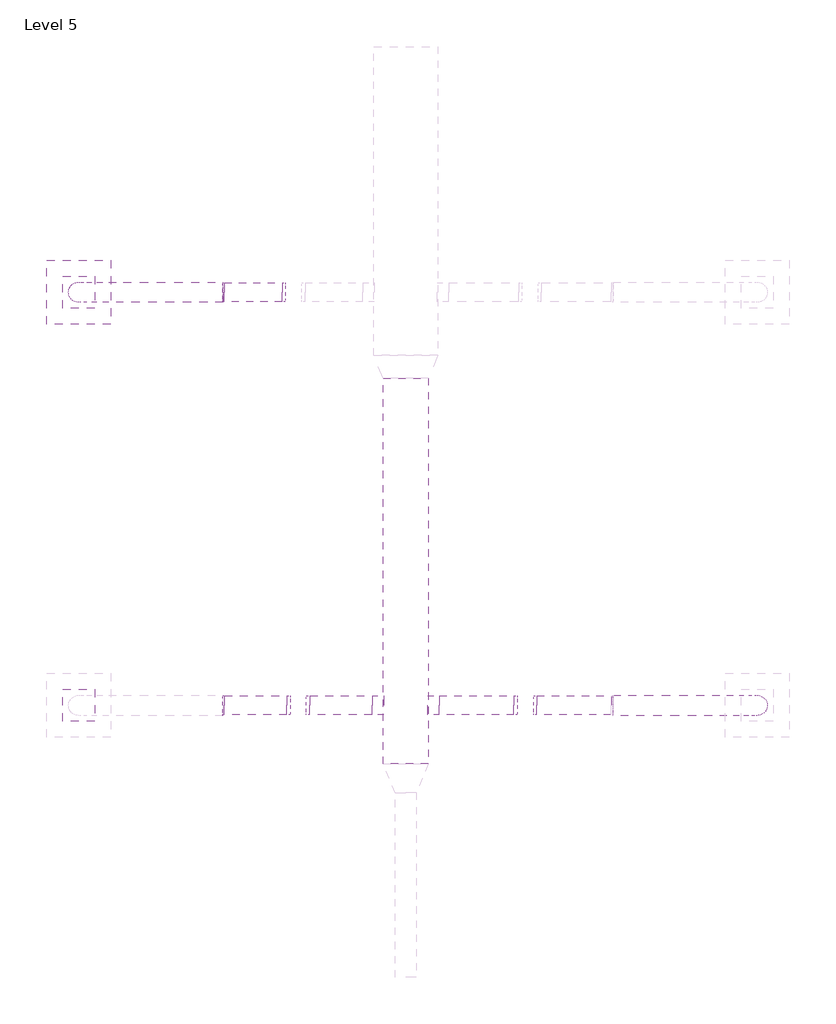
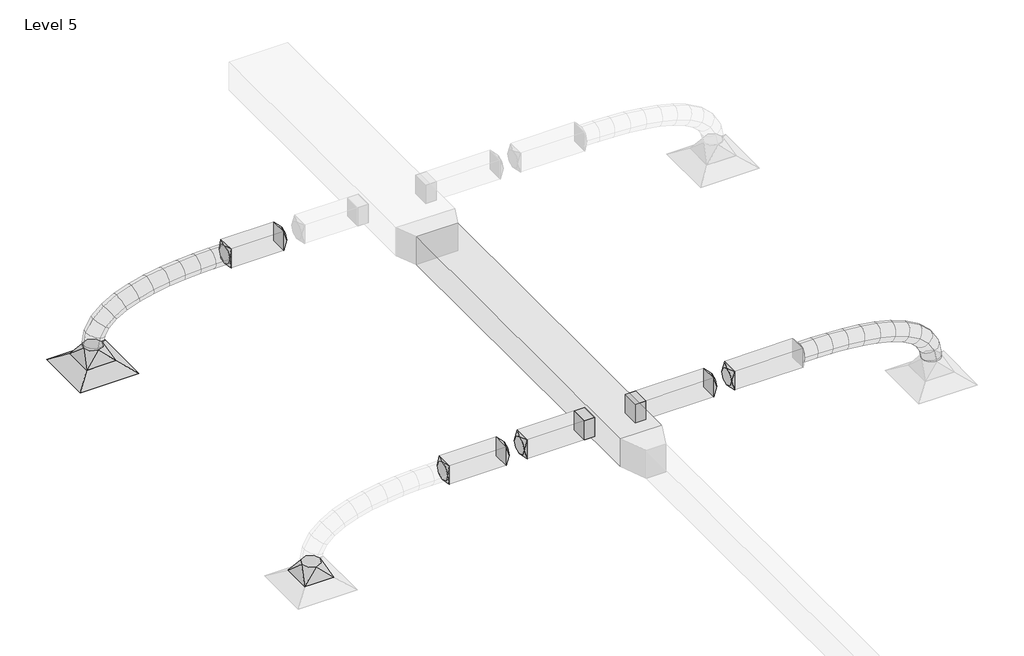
# One storey, part 2 of 7: 11 duct fittings, 8 duct segments, 1 air terminal.
"""IFC4 building model written with IfcOpenShell, lengths in millimetres."""

from ifc_helpers import new_model, si_unit, frame, origin, place, context, project, spatial, polyline, circle_curve, ellipse_curve, outline, extrude, transform, mapped, element, save
from ifc_brep_helpers import plane_surface, cylinder_surface, advanced_brep
from components import extract_grille_600_x_600_face_300_x_300_connection_8a0e72a1, rectangular_takeoff_standard_32a156ed, rectangular_to_round_transition_angle_45_degree_6939472c, rectangular_to_round_transition_angle_45_degree_460bb45a, rectangular_to_round_transition_angle_45_degree_ccfbbdd0

model = new_model("IFC4")

# Units and contexts
model_context = context("Model", 3, world=origin())
ifc_project = project(units=[si_unit("LENGTHUNIT", "METRE", prefix="MILLI")], contexts=[model_context])

# Site, building, storey
site = spatial("IfcSite", under=ifc_project)
building = spatial("IfcBuilding", under=site)
storey = spatial("IfcBuildingStorey", under=building, Name="Level 5", Elevation=19507.2)

# Air terminal
placement = place(None, origin())
extract_grille_600_x_600_face_300_x_300_connection_shape = extract_grille_600_x_600_face_300_x_300_connection_8a0e72a1(model_context)
element("IfcAirTerminal", 1, ObjectType="Extract Grille : 600 x 600 Face 300 x 300 Connection", at=placement, inside=storey, context=model_context, shape_type="MappedRepresentation", body=[
    mapped(extract_grille_600_x_600_face_300_x_300_connection_shape, transform((-13951.4273397, 7900.8314492, 21507.2), x_axis=(1.0, 0.0, 0.0), y_axis=(0.0, 1.0, 0.0), z_axis=(0.0, 0.0, 1.0))),
])

# Duct fittings
rectangular_takeoff_standard_shape = rectangular_takeoff_standard_32a156ed(model_context)
element("IfcDuctFitting", 2, ObjectType="Rectangular Takeoff : Standard", at=placement, inside=storey, context=model_context, shape_type="MappedRepresentation", body=[
    mapped(rectangular_takeoff_standard_shape, transform((-10675.899049, 4033.0001252, 22250.4), x_axis=(1.0, 0.0, 0.0), y_axis=(0.0, -1.0, 0.0), z_axis=(0.0, 0.0, -1.0))),
])
element("IfcDuctFitting", 3, ObjectType="Rectangular Takeoff : Standard", at=placement, inside=storey, context=model_context, shape_type="MappedRepresentation", body=[
    mapped(rectangular_takeoff_standard_shape, transform((-11100.899049, 4033.0001252, 22250.4), x_axis=(-1.0, 0.0, 0.0), y_axis=(0.0, -1.0, 0.0), z_axis=(0.0, 0.0, 1.0))),
])
rectangular_to_round_transition_angle_45_degree_shape = rectangular_to_round_transition_angle_45_degree_6939472c(model_context)
element("IfcDuctFitting", 4, ObjectType="Rectangular to Round Transition - Angle : 45 Degree", at=placement, inside=storey, context=model_context, shape_type="MappedRepresentation", body=[
    mapped(rectangular_to_round_transition_angle_45_degree_shape, transform((-13951.4273397, 7900.8314492, 21607.2), x_axis=(0.0, 0.0, 1.0), y_axis=(-1.0, 0.0, 0.0), z_axis=(0.0, -1.0, 0.0))),
])
element("IfcDuctFitting", 5, ObjectType="Rectangular to Round Transition - Angle : 45 Degree", at=placement, inside=storey, context=model_context, shape_type="MappedRepresentation", body=[
    mapped(rectangular_to_round_transition_angle_45_degree_shape, transform((-13951.4273397, 4033.0001252, 21607.2), x_axis=(0.0, 0.0, 1.0), y_axis=(-1.0, 0.0, 0.0), z_axis=(0.0, -1.0, 0.0))),
])
rectangular_to_round_transition_angle_45_degree_2_shape = rectangular_to_round_transition_angle_45_degree_460bb45a(model_context)
element("IfcDuctFitting", 6, ObjectType="Rectangular to Round Transition - Angle : 45 Degree", at=placement, inside=storey, context=model_context, shape_type="MappedRepresentation", body=[
    mapped(rectangular_to_round_transition_angle_45_degree_2_shape, transform((-12587.2796335, 7900.8314492, 22250.4), x_axis=(-1.0, 0.0, 0.0), y_axis=(0.0, -1.0, 0.0), z_axis=(0.0, 0.0, 1.0))),
])
element("IfcDuctFitting", 7, ObjectType="Rectangular to Round Transition - Angle : 45 Degree", at=placement, inside=storey, context=model_context, shape_type="MappedRepresentation", body=[
    mapped(rectangular_to_round_transition_angle_45_degree_2_shape, transform((-12587.2796335, 4033.0001252, 22250.4), x_axis=(-1.0, 0.0, 0.0), y_axis=(0.0, -1.0, 0.0), z_axis=(0.0, 0.0, 1.0))),
])
rectangular_to_round_transition_angle_45_degree_3_shape = rectangular_to_round_transition_angle_45_degree_ccfbbdd0(model_context)
element("IfcDuctFitting", 8, ObjectType="Rectangular to Round Transition - Angle : 45 Degree", at=placement, inside=storey, context=model_context, shape_type="MappedRepresentation", body=[
    mapped(rectangular_to_round_transition_angle_45_degree_3_shape, transform((-11788.028829, 4033.0001252, 22250.4), x_axis=(-1.0, 0.0, 0.0), y_axis=(0.0, -1.0, 0.0), z_axis=(0.0, 0.0, 1.0))),
])
element("IfcDuctFitting", 9, ObjectType="Rectangular to Round Transition - Angle : 45 Degree", at=placement, inside=storey, context=model_context, shape_type="MappedRepresentation", body=[
    mapped(rectangular_to_round_transition_angle_45_degree_3_shape, transform((-12001.7498535, 4033.0001252, 22250.4), x_axis=(1.0, 0.0, 0.0), y_axis=(0.0, 1.0, 0.0), z_axis=(0.0, 0.0, 1.0))),
])
element("IfcDuctFitting", 10, ObjectType="Rectangular to Round Transition - Angle : 45 Degree", at=placement, inside=storey, context=model_context, shape_type="MappedRepresentation", body=[
    mapped(rectangular_to_round_transition_angle_45_degree_3_shape, transform((-9875.7660617, 4033.0001252, 22250.4), x_axis=(1.0, 0.0, 0.0), y_axis=(0.0, 1.0, 0.0), z_axis=(0.0, 0.0, 1.0))),
])
element("IfcDuctFitting", 11, ObjectType="Rectangular to Round Transition - Angle : 45 Degree", at=placement, inside=storey, context=model_context, shape_type="MappedRepresentation", body=[
    mapped(rectangular_to_round_transition_angle_45_degree_3_shape, transform((-9662.0450373, 4033.0001252, 22250.4), x_axis=(-1.0, 0.0, 0.0), y_axis=(0.0, -1.0, 0.0), z_axis=(0.0, 0.0, 1.0))),
])
element("IfcDuctFitting", 12, ObjectType="Rectangular to Round Transition - Angle : 45 Degree", at=placement, inside=storey, context=model_context, shape_type="MappedRepresentation", body=[
    mapped(rectangular_to_round_transition_angle_45_degree_3_shape, transform((-12045.4998535, 7900.8314492, 22250.4), x_axis=(1.0, 0.0, 0.0), y_axis=(0.0, 1.0, 0.0), z_axis=(0.0, 0.0, 1.0))),
])

# Duct segments
element("IfcDuctSegment", 13, ObjectType="Flex - Round", at=placement, inside=storey, context=model_context, shape_type="AdvancedBrep", body=[
    advanced_brep(
    [(-13856.600673, 7900.8314492, 21740.4002096), (-13951.4273397, 7806.0047825, 21740.4002096), (-14046.2540063, 7900.8314492, 21740.4002096), (-13951.4273397, 7995.6581158, 21740.4002096), (-13856.600673, 7900.8314492, 21747.1257674), (-13951.4273397, 7806.0047825, 21756.3980144), (-14046.2540063, 7900.8314492, 21765.6702615), (-13951.4273397, 7995.6581158, 21756.3980144), (-13840.9042421, 7900.8314492, 21826.6215495), (-13930.8630542, 7806.0047825, 21860.5474205), (-14020.8218663, 7900.8314492, 21894.4732915), (-13930.8630542, 7995.6581158, 21860.5474205), (-13798.3595041, 7900.8314492, 21899.8493536), (-13872.9403898, 7806.0047825, 21960.2436396), (-13947.5212755, 7900.8314492, 22020.6379256), (-13872.9403898, 7995.6581158, 21960.2436396), (-13727.6906802, 7900.8314492, 21963.8298786), (-13783.3146346, 7806.0047825, 22041.3869579), (-13838.9385891, 7900.8314492, 22118.9440371), (-13783.3146346, 7995.6581158, 22041.3869579), (-13628.0298936, 7900.8314492, 22019.391198), (-13667.6410769, 7806.0047825, 22105.8754664), (-13707.2522603, 7900.8314492, 22192.3597348), (-13667.6410769, 7995.6581158, 22105.8754664), (-13503.9528951, 7900.8314492, 22064.7410131), (-13531.5750048, 7806.0047825, 22155.6072562), (-13559.1971146, 7900.8314492, 22246.4734993), (-13531.5750048, 7995.6581158, 22155.6072562), (-13361.8954964, 7900.8314492, 22099.475701), (-13380.7717065, 7806.0047825, 22192.4804184), (-13399.6479166, 7900.8314492, 22285.4851358), (-13380.7717065, 7995.6581158, 22192.4804184), (-13208.4245564, 7900.8314492, 22124.3487604), (-13220.88647, 7806.0047825, 22218.3930438), (-13233.3483837, 7900.8314492, 22312.4373273), (-13220.88647, 7995.6581158, 22218.3930438), (-13049.859091, 7900.8314492, 22140.7092145), (-13057.5745837, 7806.0047825, 22235.2432237), (-13065.2900763, 7900.8314492, 22329.777233), (-13057.5745837, 7995.6581158, 22235.2432237), (-12892.2772857, 7900.8314492, 22150.1845004), (-12896.4913355, 7806.0047825, 22244.929049), (-12900.7053854, 7900.8314492, 22339.6735976), (-12896.4913355, 7995.6581158, 22244.929049), (-12741.5676591, 7900.8314492, 22154.5322383), (-12743.2920138, 7806.0047825, 22249.3486108), (-12745.0163686, 7900.8314492, 22344.1649832), (-12743.2920138, 7995.6581158, 22249.3486108), (-12602.9180528, 7900.8314492, 22155.5760203), (-12603.6319067, 7995.6581158, 22250.4), (-12604.3457606, 7900.8314492, 22345.2239797), (-12603.6319067, 7806.0047825, 22250.4)],
    [
        (0, 1, circle_curve(frame((-13951.4273397, 7900.8314492, 21740.4002096), z_axis=(0.0, 0.0, -1.0), x_axis=(1.0, 0.0, 0.0)), 94.8266667)),
        (1, 2, circle_curve(frame((-13951.4273397, 7900.8314492, 21740.4002096), z_axis=(0.0, 0.0, -1.0), x_axis=(1.0, 0.0, 0.0)), 94.8266667)),
        (2, 3, circle_curve(frame((-13951.4273397, 7900.8314492, 21740.4002096), z_axis=(0.0, 0.0, -1.0), x_axis=(1.0, 0.0, 0.0)), 94.8266667)),
        (3, 0, circle_curve(frame((-13951.4273397, 7900.8314492, 21740.4002096), z_axis=(0.0, 0.0, -1.0), x_axis=(1.0, 0.0, 0.0)), 94.8266667)),
        (0, 4),
        (4, 5, ellipse_curve(frame((-13951.4273397, 7900.8314492, 21756.3980144), z_axis=(-0.0973168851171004, 0.0, -0.9952534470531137), x_axis=(0.9952534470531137, 0.0, -0.09731688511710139)), 95.2789131, 94.8266667)),
        (5, 1),
        (5, 6, ellipse_curve(frame((-13951.4273397, 7900.8314492, 21756.3980144), z_axis=(-0.0973168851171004, 0.0, -0.9952534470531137), x_axis=(0.9952534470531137, 0.0, -0.09731688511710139)), 95.2789131, 94.8266667)),
        (6, 2),
        (6, 7, ellipse_curve(frame((-13951.4273397, 7900.8314492, 21756.3980144), z_axis=(-0.0973168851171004, 0.0, -0.9952534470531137), x_axis=(0.9952534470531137, 0.0, -0.09731688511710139)), 95.2789131, 94.8266667)),
        (7, 3),
        (7, 4, ellipse_curve(frame((-13951.4273397, 7900.8314492, 21756.3980144), z_axis=(-0.0973168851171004, 0.0, -0.9952534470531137), x_axis=(0.9952534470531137, 0.0, -0.09731688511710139)), 95.2789131, 94.8266667)),
        (4, 8),
        (8, 9, ellipse_curve(frame((-13930.8630542, 7900.8314492, 21860.5474205), z_axis=(-0.35286740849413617, 0.0, -0.9356733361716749), x_axis=(0.9356733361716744, 0.0, -0.3528674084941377)), 96.143396, 94.8266667)),
        (9, 5),
        (9, 10, ellipse_curve(frame((-13930.8630542, 7900.8314492, 21860.5474205), z_axis=(-0.35286740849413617, 0.0, -0.9356733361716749), x_axis=(0.9356733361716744, 0.0, -0.3528674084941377)), 96.143396, 94.8266667)),
        (10, 6),
        (10, 11, ellipse_curve(frame((-13930.8630542, 7900.8314492, 21860.5474205), z_axis=(-0.35286740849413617, 0.0, -0.9356733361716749), x_axis=(0.9356733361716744, 0.0, -0.3528674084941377)), 96.143396, 94.8266667)),
        (11, 7),
        (11, 8, ellipse_curve(frame((-13930.8630542, 7900.8314492, 21860.5474205), z_axis=(-0.35286740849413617, 0.0, -0.9356733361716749), x_axis=(0.9356733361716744, 0.0, -0.3528674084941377)), 96.143396, 94.8266667)),
        (8, 12),
        (12, 13, ellipse_curve(frame((-13872.9403898, 7900.8314492, 21960.2436396), z_axis=(-0.6293196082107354, 0.0, -0.7771465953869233), x_axis=(0.7771465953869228, 0.0, -0.6293196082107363)), 95.9675898, 94.8266667)),
        (13, 9),
        (13, 14, ellipse_curve(frame((-13872.9403898, 7900.8314492, 21960.2436396), z_axis=(-0.6293196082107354, 0.0, -0.7771465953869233), x_axis=(0.7771465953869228, 0.0, -0.6293196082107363)), 95.9675898, 94.8266667)),
        (14, 10),
        (14, 15, ellipse_curve(frame((-13872.9403898, 7900.8314492, 21960.2436396), z_axis=(-0.6293196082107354, 0.0, -0.7771465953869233), x_axis=(0.7771465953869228, 0.0, -0.6293196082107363)), 95.9675898, 94.8266667)),
        (15, 11),
        (15, 12, ellipse_curve(frame((-13872.9403898, 7900.8314492, 21960.2436396), z_axis=(-0.6293196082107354, 0.0, -0.7771465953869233), x_axis=(0.7771465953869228, 0.0, -0.6293196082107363)), 95.9675898, 94.8266667)),
        (12, 16),
        (16, 17, ellipse_curve(frame((-13783.3146346, 7900.8314492, 22041.3869579), z_axis=(-0.8126117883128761, 0.0, -0.5828053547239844), x_axis=(0.5828053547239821, 0.0, -0.812611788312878)), 95.4417354, 94.8266667)),
        (17, 13),
        (17, 18, ellipse_curve(frame((-13783.3146346, 7900.8314492, 22041.3869579), z_axis=(-0.8126117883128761, 0.0, -0.5828053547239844), x_axis=(0.5828053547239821, 0.0, -0.812611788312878)), 95.4417354, 94.8266667)),
        (18, 14),
        (18, 19, ellipse_curve(frame((-13783.3146346, 7900.8314492, 22041.3869579), z_axis=(-0.8126117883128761, 0.0, -0.5828053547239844), x_axis=(0.5828053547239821, 0.0, -0.812611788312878)), 95.4417354, 94.8266667)),
        (19, 15),
        (19, 16, ellipse_curve(frame((-13783.3146346, 7900.8314492, 22041.3869579), z_axis=(-0.8126117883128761, 0.0, -0.5828053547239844), x_axis=(0.5828053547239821, 0.0, -0.812611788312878)), 95.4417354, 94.8266667)),
        (16, 20),
        (20, 21, ellipse_curve(frame((-13667.6410769, 7900.8314492, 22105.8754664), z_axis=(-0.909174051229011, 0.0, -0.4164163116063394), x_axis=(0.41641631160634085, 0.0, -0.9091740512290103)), 95.1239955, 94.8266667)),
        (21, 17),
        (21, 22, ellipse_curve(frame((-13667.6410769, 7900.8314492, 22105.8754664), z_axis=(-0.909174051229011, 0.0, -0.4164163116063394), x_axis=(0.41641631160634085, 0.0, -0.9091740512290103)), 95.1239955, 94.8266667)),
        (22, 18),
        (22, 23, ellipse_curve(frame((-13667.6410769, 7900.8314492, 22105.8754664), z_axis=(-0.909174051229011, 0.0, -0.4164163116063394), x_axis=(0.41641631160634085, 0.0, -0.9091740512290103)), 95.1239955, 94.8266667)),
        (23, 19),
        (23, 20, ellipse_curve(frame((-13667.6410769, 7900.8314492, 22105.8754664), z_axis=(-0.909174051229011, 0.0, -0.4164163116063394), x_axis=(0.41641631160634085, 0.0, -0.9091740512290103)), 95.1239955, 94.8266667)),
        (20, 24),
        (24, 25, ellipse_curve(frame((-13531.5750048, 7900.8314492, 22155.6072562), z_axis=(-0.9567701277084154, 0.0, -0.29084518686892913), x_axis=(0.29084518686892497, 0.0, -0.9567701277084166)), 94.9718647, 94.8266667)),
        (25, 21),
        (25, 26, ellipse_curve(frame((-13531.5750048, 7900.8314492, 22155.6072562), z_axis=(-0.9567701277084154, 0.0, -0.29084518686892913), x_axis=(0.29084518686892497, 0.0, -0.9567701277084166)), 94.9718647, 94.8266667)),
        (26, 22),
        (26, 27, ellipse_curve(frame((-13531.5750048, 7900.8314492, 22155.6072562), z_axis=(-0.9567701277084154, 0.0, -0.29084518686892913), x_axis=(0.29084518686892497, 0.0, -0.9567701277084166)), 94.9718647, 94.8266667)),
        (27, 23),
        (27, 24, ellipse_curve(frame((-13531.5750048, 7900.8314492, 22155.6072562), z_axis=(-0.9567701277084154, 0.0, -0.29084518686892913), x_axis=(0.29084518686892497, 0.0, -0.9567701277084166)), 94.9718647, 94.8266667)),
        (24, 28),
        (28, 29, ellipse_curve(frame((-13380.7717065, 7900.8314492, 22192.4804184), z_axis=(-0.9800189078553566, 0.0, -0.19890434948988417), x_axis=(0.1989043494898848, 0.0, -0.9800189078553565)), 94.9009419, 94.8266667)),
        (29, 25),
        (29, 30, ellipse_curve(frame((-13380.7717065, 7900.8314492, 22192.4804184), z_axis=(-0.9800189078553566, 0.0, -0.19890434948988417), x_axis=(0.1989043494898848, 0.0, -0.9800189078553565)), 94.9009419, 94.8266667)),
        (30, 26),
        (30, 31, ellipse_curve(frame((-13380.7717065, 7900.8314492, 22192.4804184), z_axis=(-0.9800189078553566, 0.0, -0.19890434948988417), x_axis=(0.1989043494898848, 0.0, -0.9800189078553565)), 94.9009419, 94.8266667)),
        (31, 27),
        (31, 28, ellipse_curve(frame((-13380.7717065, 7900.8314492, 22192.4804184), z_axis=(-0.9800189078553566, 0.0, -0.19890434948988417), x_axis=(0.1989043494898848, 0.0, -0.9800189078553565)), 94.9009419, 94.8266667)),
        (28, 32),
        (32, 33, ellipse_curve(frame((-13220.88647, 7900.8314492, 22218.3930438), z_axis=(-0.9913343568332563, 0.0, -0.1313628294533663), x_axis=(0.13136282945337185, 0.0, -0.9913343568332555)), 94.8663615, 94.8266667)),
        (33, 29),
        (33, 34, ellipse_curve(frame((-13220.88647, 7900.8314492, 22218.3930438), z_axis=(-0.9913343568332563, 0.0, -0.1313628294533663), x_axis=(0.13136282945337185, 0.0, -0.9913343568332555)), 94.8663615, 94.8266667)),
        (34, 30),
        (34, 35, ellipse_curve(frame((-13220.88647, 7900.8314492, 22218.3930438), z_axis=(-0.9913343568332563, 0.0, -0.1313628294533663), x_axis=(0.13136282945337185, 0.0, -0.9913343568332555)), 94.8663615, 94.8266667)),
        (35, 31),
        (35, 32, ellipse_curve(frame((-13220.88647, 7900.8314492, 22218.3930438), z_axis=(-0.9913343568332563, 0.0, -0.1313628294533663), x_axis=(0.13136282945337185, 0.0, -0.9913343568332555)), 94.8663615, 94.8266667)),
        (32, 36),
        (36, 37, ellipse_curve(frame((-13057.5745837, 7900.8314492, 22235.2432237), z_axis=(-0.9966859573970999, 0.0, -0.08134557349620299), x_axis=(0.08134557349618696, 0.0, -0.9966859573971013)), 94.8483407, 94.8266667)),
        (37, 33),
        (37, 38, ellipse_curve(frame((-13057.5745837, 7900.8314492, 22235.2432237), z_axis=(-0.9966859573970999, 0.0, -0.08134557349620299), x_axis=(0.08134557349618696, 0.0, -0.9966859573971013)), 94.8483407, 94.8266667)),
        (38, 34),
        (38, 39, ellipse_curve(frame((-13057.5745837, 7900.8314492, 22235.2432237), z_axis=(-0.9966859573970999, 0.0, -0.08134557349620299), x_axis=(0.08134557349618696, 0.0, -0.9966859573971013)), 94.8483407, 94.8266667)),
        (39, 35),
        (39, 36, ellipse_curve(frame((-13057.5745837, 7900.8314492, 22235.2432237), z_axis=(-0.9966859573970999, 0.0, -0.08134557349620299), x_axis=(0.08134557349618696, 0.0, -0.9966859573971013)), 94.8483407, 94.8266667)),
        (36, 40),
        (40, 41, ellipse_curve(frame((-12896.4913355, 7900.8314492, 22244.929049), z_axis=(-0.9990123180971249, 0.0, -0.0444340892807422), x_axis=(0.0444340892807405, 0.0, -0.999012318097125)), 94.8382186, 94.8266667)),
        (41, 37),
        (41, 42, ellipse_curve(frame((-12896.4913355, 7900.8314492, 22244.929049), z_axis=(-0.9990123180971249, 0.0, -0.0444340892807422), x_axis=(0.0444340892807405, 0.0, -0.999012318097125)), 94.8382186, 94.8266667)),
        (42, 38),
        (42, 43, ellipse_curve(frame((-12896.4913355, 7900.8314492, 22244.929049), z_axis=(-0.9990123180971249, 0.0, -0.0444340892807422), x_axis=(0.0444340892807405, 0.0, -0.999012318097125)), 94.8382186, 94.8266667)),
        (43, 39),
        (43, 40, ellipse_curve(frame((-12896.4913355, 7900.8314492, 22244.929049), z_axis=(-0.9990123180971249, 0.0, -0.0444340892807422), x_axis=(0.0444340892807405, 0.0, -0.999012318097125)), 94.8382186, 94.8266667)),
        (40, 44),
        (44, 45, ellipse_curve(frame((-12743.2920138, 7900.8314492, 22249.3486108), z_axis=(-0.9998346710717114, 0.0, -0.01818324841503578), x_axis=(0.01818324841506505, 0.0, -0.9998346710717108)), 94.8320509, 94.8266667)),
        (45, 41),
        (45, 46, ellipse_curve(frame((-12743.2920138, 7900.8314492, 22249.3486108), z_axis=(-0.9998346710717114, 0.0, -0.01818324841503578), x_axis=(0.01818324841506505, 0.0, -0.9998346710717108)), 94.8320509, 94.8266667)),
        (46, 42),
        (46, 47, ellipse_curve(frame((-12743.2920138, 7900.8314492, 22249.3486108), z_axis=(-0.9998346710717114, 0.0, -0.01818324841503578), x_axis=(0.01818324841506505, 0.0, -0.9998346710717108)), 94.8320509, 94.8266667)),
        (47, 43),
        (47, 44, ellipse_curve(frame((-12743.2920138, 7900.8314492, 22249.3486108), z_axis=(-0.9998346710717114, 0.0, -0.01818324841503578), x_axis=(0.01818324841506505, 0.0, -0.9998346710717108)), 94.8320509, 94.8266667)),
        (48, 49, circle_curve(frame((-12603.6319067, 7900.8314492, 22250.4), z_axis=(0.9999716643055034, 0.0, 0.007527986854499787), x_axis=(0.007527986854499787, 0.0, -0.9999716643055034)), 94.8266667)),
        (49, 50, circle_curve(frame((-12603.6319067, 7900.8314492, 22250.4), z_axis=(0.9999716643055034, 0.0, 0.007527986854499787), x_axis=(0.007527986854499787, 0.0, -0.9999716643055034)), 94.8266667)),
        (50, 51, circle_curve(frame((-12603.6319067, 7900.8314492, 22250.4), z_axis=(0.9999716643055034, 0.0, 0.007527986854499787), x_axis=(0.007527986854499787, 0.0, -0.9999716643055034)), 94.8266667)),
        (51, 48, circle_curve(frame((-12603.6319067, 7900.8314492, 22250.4), z_axis=(0.9999716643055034, 0.0, 0.007527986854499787), x_axis=(0.007527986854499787, 0.0, -0.9999716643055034)), 94.8266667)),
        (44, 48),
        (51, 45),
        (50, 46),
        (49, 47),
    ],
    [
        plane_surface(frame((-13951.4273397, 7806.0047825, 21740.4002096), z_axis=(0.0, 0.0, -1.0), x_axis=(1.0, 0.0, 0.0))),
        cylinder_surface(frame((-13951.4273397, 7900.8314492, 21740.4002096), z_axis=(0.0, 0.0, -1.0), x_axis=(1.0, 0.0, 0.0)), 94.8266667),
        cylinder_surface(frame((-13951.4273397, 7900.8314492, 21756.3980144), z_axis=(-0.1937099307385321, 0.0, -0.9810588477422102), x_axis=(0.9810588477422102, 0.0, -0.1937099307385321)), 94.8266667),
        cylinder_surface(frame((-13930.8630542, 7900.8314492, 21860.5474205), z_axis=(-0.5023595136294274, 0.0, -0.8646588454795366), x_axis=(0.8646588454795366, 0.0, -0.5023595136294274)), 94.8266667),
        cylinder_surface(frame((-13872.9403898, 7900.8314492, 21960.2436396), z_axis=(-0.7413162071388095, 0.0, -0.6711559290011), x_axis=(0.6711559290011, 0.0, -0.7413162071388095)), 94.8266667),
        cylinder_surface(frame((-13783.3146346, 7900.8314492, 22041.3869579), z_axis=(-0.8734337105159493, 0.0, -0.4869430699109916), x_axis=(0.4869430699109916, 0.0, -0.8734337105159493)), 94.8266667),
        cylinder_surface(frame((-13667.6410769, 7900.8314492, 22105.8754664), z_axis=(-0.9392307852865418, 0.0, -0.3432863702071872), x_axis=(0.3432863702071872, 0.0, -0.9392307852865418)), 94.8266667),
        cylinder_surface(frame((-13531.5750048, 7900.8314492, 22155.6072562), z_axis=(-0.9713839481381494, 0.0, -0.23751468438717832), x_axis=(0.23751468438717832, 0.0, -0.9713839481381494)), 94.8266667),
        cylinder_surface(frame((-13380.7717065, 7900.8314492, 22192.4804184), z_axis=(-0.9871198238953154, 0.0, -0.1599826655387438), x_axis=(0.1599826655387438, 0.0, -0.9871198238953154)), 94.8266667),
        cylinder_surface(frame((-13220.88647, 7900.8314492, 22218.3930438), z_axis=(-0.9947192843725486, 0.0, -0.1026330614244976), x_axis=(0.1026330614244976, 0.0, -0.9947192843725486)), 94.8266667),
        cylinder_surface(frame((-13057.5745837, 7900.8314492, 22235.2432237), z_axis=(-0.9981971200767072, 0.0, -0.06002090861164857), x_axis=(0.06002090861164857, 0.0, -0.9981971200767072)), 94.8266667),
        cylinder_surface(frame((-12896.4913355, 7900.8314492, 22244.929049), z_axis=(-0.9995841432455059, 0.0, -0.028836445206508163), x_axis=(0.028836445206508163, 0.0, -0.9995841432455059)), 94.8266667),
        plane_surface(frame((-12603.6319067, 7806.0047825, 22250.4), z_axis=(0.9999716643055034, 0.0, 0.007527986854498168), x_axis=(0.007527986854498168, 0.0, -0.9999716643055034))),
        cylinder_surface(frame((-12743.2920138, 7900.8314492, 22249.3486108), z_axis=(-0.9999716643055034, 0.0, -0.007527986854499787), x_axis=(0.007527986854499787, 0.0, -0.9999716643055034)), 94.8266667),
    ],
    [
        (0, [[1, 2, 3, 4]]),
        (1, [[-1, 5, 6, 7]]),
        (1, [[-2, -7, 8, 9]]),
        (1, [[-3, -9, 10, 11]]),
        (1, [[-4, -11, 12, -5]]),
        (2, [[-6, 13, 14, 15]]),
        (2, [[-8, -15, 16, 17]]),
        (2, [[-10, -17, 18, 19]]),
        (2, [[-12, -19, 20, -13]]),
        (3, [[-14, 21, 22, 23]]),
        (3, [[-16, -23, 24, 25]]),
        (3, [[-18, -25, 26, 27]]),
        (3, [[-20, -27, 28, -21]]),
        (4, [[-22, 29, 30, 31]]),
        (4, [[-24, -31, 32, 33]]),
        (4, [[-26, -33, 34, 35]]),
        (4, [[-28, -35, 36, -29]]),
        (5, [[-30, 37, 38, 39]]),
        (5, [[-32, -39, 40, 41]]),
        (5, [[-34, -41, 42, 43]]),
        (5, [[-36, -43, 44, -37]]),
        (6, [[-38, 45, 46, 47]]),
        (6, [[-40, -47, 48, 49]]),
        (6, [[-42, -49, 50, 51]]),
        (6, [[-44, -51, 52, -45]]),
        (7, [[-46, 53, 54, 55]]),
        (7, [[-48, -55, 56, 57]]),
        (7, [[-50, -57, 58, 59]]),
        (7, [[-52, -59, 60, -53]]),
        (8, [[-54, 61, 62, 63]]),
        (8, [[-56, -63, 64, 65]]),
        (8, [[-58, -65, 66, 67]]),
        (8, [[-60, -67, 68, -61]]),
        (9, [[-62, 69, 70, 71]]),
        (9, [[-64, -71, 72, 73]]),
        (9, [[-66, -73, 74, 75]]),
        (9, [[-68, -75, 76, -69]]),
        (10, [[-70, 77, 78, 79]]),
        (10, [[-72, -79, 80, 81]]),
        (10, [[-74, -81, 82, 83]]),
        (10, [[-76, -83, 84, -77]]),
        (11, [[-78, 85, 86, 87]]),
        (11, [[-80, -87, 88, 89]]),
        (11, [[-82, -89, 90, 91]]),
        (11, [[-84, -91, 92, -85]]),
        (12, [[93, 94, 95, 96]]),
        (13, [[-86, 97, -96, 98]]),
        (13, [[-88, -98, -95, 99]]),
        (13, [[-90, -99, -94, 100]]),
        (13, [[-92, -100, -93, -97]]),
    ],
),
])
element("IfcDuctSegment", 14, ObjectType="Flex - Round", at=placement, inside=storey, context=model_context, shape_type="AdvancedBrep", body=[
    advanced_brep(
    [(-7504.5376771, 4033.0001252, 21740.4002096), (-7599.3643438, 3938.1734585, 21740.4002096), (-7694.1910105, 4033.0001252, 21740.4002096), (-7599.3643438, 4127.8267918, 21740.4002096), (-7504.5376771, 4033.0001252, 21765.6702615), (-7599.3643438, 3938.1734585, 21756.3980144), (-7694.1910105, 4033.0001252, 21747.1257674), (-7599.3643438, 4127.8267918, 21756.3980144), (-7529.9698172, 4033.0001252, 21894.4732915), (-7619.9286293, 3938.1734585, 21860.5474205), (-7709.8874414, 4033.0001252, 21826.6215495), (-7619.9286293, 4127.8267918, 21860.5474205), (-7603.270408, 4033.0001252, 22020.6379256), (-7677.8512937, 3938.1734585, 21960.2436396), (-7752.4321794, 4033.0001252, 21899.8493536), (-7677.8512937, 4127.8267918, 21960.2436396), (-7711.8530944, 4033.0001252, 22118.9440371), (-7767.4770488, 3938.1734585, 22041.3869579), (-7823.1010033, 4033.0001252, 21963.8298786), (-7767.4770488, 4127.8267918, 22041.3869579), (-7843.5394232, 4033.0001252, 22192.3597348), (-7883.1506065, 3938.1734585, 22105.8754664), (-7922.7617899, 4033.0001252, 22019.391198), (-7883.1506065, 4127.8267918, 22105.8754664), (-7991.5945689, 4033.0001252, 22246.4734993), (-8019.2166786, 3938.1734585, 22155.6072562), (-8046.8387884, 4033.0001252, 22064.7410131), (-8019.2166786, 4127.8267918, 22155.6072562), (-8151.1437669, 4033.0001252, 22285.4851358), (-8170.019977, 3938.1734585, 22192.4804184), (-8188.8961871, 4033.0001252, 22099.475701), (-8170.019977, 4127.8267918, 22192.4804184), (-8317.4432998, 4033.0001252, 22312.4373273), (-8329.9052134, 3938.1734585, 22218.3930438), (-8342.3671271, 4033.0001252, 22124.3487604), (-8329.9052134, 4127.8267918, 22218.3930438), (-8485.5016071, 4033.0001252, 22329.777233), (-8493.2170998, 3938.1734585, 22235.2432237), (-8500.9325925, 4033.0001252, 22140.7092145), (-8493.2170998, 4127.8267918, 22235.2432237), (-8650.086298, 4033.0001252, 22339.6735976), (-8654.3003479, 3938.1734585, 22244.929049), (-8658.5143978, 4033.0001252, 22150.1845004), (-8654.3003479, 4127.8267918, 22244.929049), (-8805.7753149, 4033.0001252, 22344.1649832), (-8807.4996696, 3938.1734585, 22249.3486108), (-8809.2240244, 4033.0001252, 22154.5322383), (-8807.4996696, 4127.8267918, 22249.3486108), (-8946.4459229, 4033.0001252, 22345.2239797), (-8947.1597768, 3938.1734585, 22250.4), (-8947.8736307, 4033.0001252, 22155.5760203), (-8947.1597768, 4127.8267918, 22250.4)],
    [
        (0, 1, circle_curve(frame((-7599.3643438, 4033.0001252, 21740.4002096), z_axis=(0.0, 0.0, -1.0), x_axis=(1.0, 0.0, 0.0)), 94.8266667)),
        (1, 2, circle_curve(frame((-7599.3643438, 4033.0001252, 21740.4002096), z_axis=(0.0, 0.0, -1.0), x_axis=(1.0, 0.0, 0.0)), 94.8266667)),
        (2, 3, circle_curve(frame((-7599.3643438, 4033.0001252, 21740.4002096), z_axis=(0.0, 0.0, -1.0), x_axis=(1.0, 0.0, 0.0)), 94.8266667)),
        (3, 0, circle_curve(frame((-7599.3643438, 4033.0001252, 21740.4002096), z_axis=(0.0, 0.0, -1.0), x_axis=(1.0, 0.0, 0.0)), 94.8266667)),
        (0, 4),
        (4, 5, ellipse_curve(frame((-7599.3643438, 4033.0001252, 21756.3980144), z_axis=(0.09731688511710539, 0.0, -0.9952534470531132), x_axis=(-0.9952534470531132, 0.0, -0.09731688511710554)), 95.2789131, 94.8266667)),
        (5, 1),
        (5, 6, ellipse_curve(frame((-7599.3643438, 4033.0001252, 21756.3980144), z_axis=(0.09731688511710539, 0.0, -0.9952534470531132), x_axis=(-0.9952534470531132, 0.0, -0.09731688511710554)), 95.2789131, 94.8266667)),
        (6, 2),
        (6, 7, ellipse_curve(frame((-7599.3643438, 4033.0001252, 21756.3980144), z_axis=(0.09731688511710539, 0.0, -0.9952534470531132), x_axis=(-0.9952534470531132, 0.0, -0.09731688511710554)), 95.2789131, 94.8266667)),
        (7, 3),
        (7, 4, ellipse_curve(frame((-7599.3643438, 4033.0001252, 21756.3980144), z_axis=(0.09731688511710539, 0.0, -0.9952534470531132), x_axis=(-0.9952534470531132, 0.0, -0.09731688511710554)), 95.2789131, 94.8266667)),
        (4, 8),
        (8, 9, ellipse_curve(frame((-7619.9286293, 4033.0001252, 21860.5474205), z_axis=(0.3528674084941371, 0.0, -0.9356733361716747), x_axis=(-0.9356733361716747, 0.0, -0.3528674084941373)), 96.143396, 94.8266667)),
        (9, 5),
        (9, 10, ellipse_curve(frame((-7619.9286293, 4033.0001252, 21860.5474205), z_axis=(0.3528674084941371, 0.0, -0.9356733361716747), x_axis=(-0.9356733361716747, 0.0, -0.3528674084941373)), 96.143396, 94.8266667)),
        (10, 6),
        (10, 11, ellipse_curve(frame((-7619.9286293, 4033.0001252, 21860.5474205), z_axis=(0.3528674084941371, 0.0, -0.9356733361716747), x_axis=(-0.9356733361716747, 0.0, -0.3528674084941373)), 96.143396, 94.8266667)),
        (11, 7),
        (11, 8, ellipse_curve(frame((-7619.9286293, 4033.0001252, 21860.5474205), z_axis=(0.3528674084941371, 0.0, -0.9356733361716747), x_axis=(-0.9356733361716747, 0.0, -0.3528674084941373)), 96.143396, 94.8266667)),
        (8, 12),
        (12, 13, ellipse_curve(frame((-7677.8512937, 4033.0001252, 21960.2436396), z_axis=(0.6293196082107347, 0.0, -0.777146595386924), x_axis=(-0.7771465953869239, 0.0, -0.6293196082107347)), 95.9675898, 94.8266667)),
        (13, 9),
        (13, 14, ellipse_curve(frame((-7677.8512937, 4033.0001252, 21960.2436396), z_axis=(0.6293196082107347, 0.0, -0.777146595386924), x_axis=(-0.7771465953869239, 0.0, -0.6293196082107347)), 95.9675898, 94.8266667)),
        (14, 10),
        (14, 15, ellipse_curve(frame((-7677.8512937, 4033.0001252, 21960.2436396), z_axis=(0.6293196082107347, 0.0, -0.777146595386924), x_axis=(-0.7771465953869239, 0.0, -0.6293196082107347)), 95.9675898, 94.8266667)),
        (15, 11),
        (15, 12, ellipse_curve(frame((-7677.8512937, 4033.0001252, 21960.2436396), z_axis=(0.6293196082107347, 0.0, -0.777146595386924), x_axis=(-0.7771465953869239, 0.0, -0.6293196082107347)), 95.9675898, 94.8266667)),
        (12, 16),
        (16, 17, ellipse_curve(frame((-7767.4770488, 4033.0001252, 22041.3869579), z_axis=(0.8126117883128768, 0.0, -0.5828053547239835), x_axis=(-0.5828053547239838, 0.0, -0.8126117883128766)), 95.4417354, 94.8266667)),
        (17, 13),
        (17, 18, ellipse_curve(frame((-7767.4770488, 4033.0001252, 22041.3869579), z_axis=(0.8126117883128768, 0.0, -0.5828053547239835), x_axis=(-0.5828053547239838, 0.0, -0.8126117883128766)), 95.4417354, 94.8266667)),
        (18, 14),
        (18, 19, ellipse_curve(frame((-7767.4770488, 4033.0001252, 22041.3869579), z_axis=(0.8126117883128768, 0.0, -0.5828053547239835), x_axis=(-0.5828053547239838, 0.0, -0.8126117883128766)), 95.4417354, 94.8266667)),
        (19, 15),
        (19, 16, ellipse_curve(frame((-7767.4770488, 4033.0001252, 22041.3869579), z_axis=(0.8126117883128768, 0.0, -0.5828053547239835), x_axis=(-0.5828053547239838, 0.0, -0.8126117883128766)), 95.4417354, 94.8266667)),
        (16, 20),
        (20, 21, ellipse_curve(frame((-7883.1506065, 4033.0001252, 22105.8754664), z_axis=(0.9091740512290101, 0.0, -0.4164163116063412), x_axis=(-0.41641631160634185, 0.0, -0.9091740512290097)), 95.1239955, 94.8266667)),
        (21, 17),
        (21, 22, ellipse_curve(frame((-7883.1506065, 4033.0001252, 22105.8754664), z_axis=(0.9091740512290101, 0.0, -0.4164163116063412), x_axis=(-0.41641631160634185, 0.0, -0.9091740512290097)), 95.1239955, 94.8266667)),
        (22, 18),
        (22, 23, ellipse_curve(frame((-7883.1506065, 4033.0001252, 22105.8754664), z_axis=(0.9091740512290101, 0.0, -0.4164163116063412), x_axis=(-0.41641631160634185, 0.0, -0.9091740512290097)), 95.1239955, 94.8266667)),
        (23, 19),
        (23, 20, ellipse_curve(frame((-7883.1506065, 4033.0001252, 22105.8754664), z_axis=(0.9091740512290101, 0.0, -0.4164163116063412), x_axis=(-0.41641631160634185, 0.0, -0.9091740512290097)), 95.1239955, 94.8266667)),
        (20, 24),
        (24, 25, ellipse_curve(frame((-8019.2166786, 4033.0001252, 22155.6072562), z_axis=(0.9567701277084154, 0.0, -0.29084518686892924), x_axis=(-0.2908451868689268, 0.0, -0.9567701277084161)), 94.9718647, 94.8266667)),
        (25, 21),
        (25, 26, ellipse_curve(frame((-8019.2166786, 4033.0001252, 22155.6072562), z_axis=(0.9567701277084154, 0.0, -0.29084518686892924), x_axis=(-0.2908451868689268, 0.0, -0.9567701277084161)), 94.9718647, 94.8266667)),
        (26, 22),
        (26, 27, ellipse_curve(frame((-8019.2166786, 4033.0001252, 22155.6072562), z_axis=(0.9567701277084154, 0.0, -0.29084518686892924), x_axis=(-0.2908451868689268, 0.0, -0.9567701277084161)), 94.9718647, 94.8266667)),
        (27, 23),
        (27, 24, ellipse_curve(frame((-8019.2166786, 4033.0001252, 22155.6072562), z_axis=(0.9567701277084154, 0.0, -0.29084518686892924), x_axis=(-0.2908451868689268, 0.0, -0.9567701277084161)), 94.9718647, 94.8266667)),
        (24, 28),
        (28, 29, ellipse_curve(frame((-8170.019977, 4033.0001252, 22192.4804184), z_axis=(0.9800189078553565, 0.0, -0.1989043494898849), x_axis=(-0.19890434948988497, 0.0, -0.9800189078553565)), 94.9009419, 94.8266667)),
        (29, 25),
        (29, 30, ellipse_curve(frame((-8170.019977, 4033.0001252, 22192.4804184), z_axis=(0.9800189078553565, 0.0, -0.1989043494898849), x_axis=(-0.19890434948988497, 0.0, -0.9800189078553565)), 94.9009419, 94.8266667)),
        (30, 26),
        (30, 31, ellipse_curve(frame((-8170.019977, 4033.0001252, 22192.4804184), z_axis=(0.9800189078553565, 0.0, -0.1989043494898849), x_axis=(-0.19890434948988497, 0.0, -0.9800189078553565)), 94.9009419, 94.8266667)),
        (31, 27),
        (31, 28, ellipse_curve(frame((-8170.019977, 4033.0001252, 22192.4804184), z_axis=(0.9800189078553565, 0.0, -0.1989043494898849), x_axis=(-0.19890434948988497, 0.0, -0.9800189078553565)), 94.9009419, 94.8266667)),
        (28, 32),
        (32, 33, ellipse_curve(frame((-8329.9052134, 4033.0001252, 22218.3930438), z_axis=(0.9913343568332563, 0.0, -0.13136282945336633), x_axis=(-0.13136282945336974, 0.0, -0.9913343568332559)), 94.8663615, 94.8266667)),
        (33, 29),
        (33, 34, ellipse_curve(frame((-8329.9052134, 4033.0001252, 22218.3930438), z_axis=(0.9913343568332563, 0.0, -0.13136282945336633), x_axis=(-0.13136282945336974, 0.0, -0.9913343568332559)), 94.8663615, 94.8266667)),
        (34, 30),
        (34, 35, ellipse_curve(frame((-8329.9052134, 4033.0001252, 22218.3930438), z_axis=(0.9913343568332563, 0.0, -0.13136282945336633), x_axis=(-0.13136282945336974, 0.0, -0.9913343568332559)), 94.8663615, 94.8266667)),
        (35, 31),
        (35, 32, ellipse_curve(frame((-8329.9052134, 4033.0001252, 22218.3930438), z_axis=(0.9913343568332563, 0.0, -0.13136282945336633), x_axis=(-0.13136282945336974, 0.0, -0.9913343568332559)), 94.8663615, 94.8266667)),
        (32, 36),
        (36, 37, ellipse_curve(frame((-8493.2170998, 4033.0001252, 22235.2432237), z_axis=(0.9966859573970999, 0.0, -0.08134557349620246), x_axis=(-0.08134557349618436, 0.0, -0.9966859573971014)), 94.8483407, 94.8266667)),
        (37, 33),
        (37, 38, ellipse_curve(frame((-8493.2170998, 4033.0001252, 22235.2432237), z_axis=(0.9966859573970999, 0.0, -0.08134557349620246), x_axis=(-0.08134557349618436, 0.0, -0.9966859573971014)), 94.8483407, 94.8266667)),
        (38, 34),
        (38, 39, ellipse_curve(frame((-8493.2170998, 4033.0001252, 22235.2432237), z_axis=(0.9966859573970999, 0.0, -0.08134557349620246), x_axis=(-0.08134557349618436, 0.0, -0.9966859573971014)), 94.8483407, 94.8266667)),
        (39, 35),
        (39, 36, ellipse_curve(frame((-8493.2170998, 4033.0001252, 22235.2432237), z_axis=(0.9966859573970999, 0.0, -0.08134557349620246), x_axis=(-0.08134557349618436, 0.0, -0.9966859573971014)), 94.8483407, 94.8266667)),
        (36, 40),
        (40, 41, ellipse_curve(frame((-8654.3003479, 4033.0001252, 22244.929049), z_axis=(0.9990123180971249, 0.0, -0.04443408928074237), x_axis=(-0.0444340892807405, 0.0, -0.999012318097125)), 94.8382186, 94.8266667)),
        (41, 37),
        (41, 42, ellipse_curve(frame((-8654.3003479, 4033.0001252, 22244.929049), z_axis=(0.9990123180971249, 0.0, -0.04443408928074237), x_axis=(-0.0444340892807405, 0.0, -0.999012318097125)), 94.8382186, 94.8266667)),
        (42, 38),
        (42, 43, ellipse_curve(frame((-8654.3003479, 4033.0001252, 22244.929049), z_axis=(0.9990123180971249, 0.0, -0.04443408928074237), x_axis=(-0.0444340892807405, 0.0, -0.999012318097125)), 94.8382186, 94.8266667)),
        (43, 39),
        (43, 40, ellipse_curve(frame((-8654.3003479, 4033.0001252, 22244.929049), z_axis=(0.9990123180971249, 0.0, -0.04443408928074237), x_axis=(-0.0444340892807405, 0.0, -0.999012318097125)), 94.8382186, 94.8266667)),
        (40, 44),
        (44, 45, ellipse_curve(frame((-8807.4996696, 4033.0001252, 22249.3486108), z_axis=(0.9998346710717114, 0.0, -0.018183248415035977), x_axis=(-0.018183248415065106, 0.0, -0.9998346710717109)), 94.8320509, 94.8266667)),
        (45, 41),
        (45, 46, ellipse_curve(frame((-8807.4996696, 4033.0001252, 22249.3486108), z_axis=(0.9998346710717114, 0.0, -0.018183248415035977), x_axis=(-0.018183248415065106, 0.0, -0.9998346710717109)), 94.8320509, 94.8266667)),
        (46, 42),
        (46, 47, ellipse_curve(frame((-8807.4996696, 4033.0001252, 22249.3486108), z_axis=(0.9998346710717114, 0.0, -0.018183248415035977), x_axis=(-0.018183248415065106, 0.0, -0.9998346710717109)), 94.8320509, 94.8266667)),
        (47, 43),
        (47, 44, ellipse_curve(frame((-8807.4996696, 4033.0001252, 22249.3486108), z_axis=(0.9998346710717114, 0.0, -0.018183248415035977), x_axis=(-0.018183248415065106, 0.0, -0.9998346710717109)), 94.8320509, 94.8266667)),
        (44, 48),
        (48, 49, circle_curve(frame((-8947.1597768, 4033.0001252, 22250.4), z_axis=(0.9999716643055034, 0.0, -0.007527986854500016), x_axis=(0.007527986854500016, 0.0, 0.9999716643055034)), 94.8266667)),
        (49, 45),
        (49, 50, circle_curve(frame((-8947.1597768, 4033.0001252, 22250.4), z_axis=(0.9999716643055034, 0.0, -0.007527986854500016), x_axis=(0.007527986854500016, 0.0, 0.9999716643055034)), 94.8266667)),
        (50, 46),
        (50, 51, circle_curve(frame((-8947.1597768, 4033.0001252, 22250.4), z_axis=(0.9999716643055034, 0.0, -0.007527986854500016), x_axis=(0.007527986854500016, 0.0, 0.9999716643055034)), 94.8266667)),
        (51, 47),
        (51, 48, circle_curve(frame((-8947.1597768, 4033.0001252, 22250.4), z_axis=(0.9999716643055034, 0.0, -0.007527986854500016), x_axis=(0.007527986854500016, 0.0, 0.9999716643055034)), 94.8266667)),
    ],
    [
        plane_surface(frame((-7599.3643438, 3938.1734585, 21740.4002096), z_axis=(0.0, 0.0, -1.0), x_axis=(1.0, 0.0, 0.0))),
        cylinder_surface(frame((-7599.3643438, 4033.0001252, 21740.4002096), z_axis=(0.0, 0.0, -1.0), x_axis=(1.0, 0.0, 0.0)), 94.8266667),
        cylinder_surface(frame((-7599.3643438, 4033.0001252, 21756.3980144), z_axis=(0.1937099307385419, 0.0, -0.9810588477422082), x_axis=(0.9810588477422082, 0.0, 0.1937099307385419)), 94.8266667),
        cylinder_surface(frame((-7619.9286293, 4033.0001252, 21860.5474205), z_axis=(0.5023595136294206, 0.0, -0.8646588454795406), x_axis=(0.8646588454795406, 0.0, 0.5023595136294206)), 94.8266667),
        cylinder_surface(frame((-7677.8512937, 4033.0001252, 21960.2436396), z_axis=(0.7413162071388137, 0.0, -0.6711559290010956), x_axis=(0.6711559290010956, 0.0, 0.7413162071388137)), 94.8266667),
        cylinder_surface(frame((-7767.4770488, 4033.0001252, 22041.3869579), z_axis=(0.8734337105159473, 0.0, -0.486943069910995), x_axis=(0.486943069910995, 0.0, 0.8734337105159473)), 94.8266667),
        cylinder_surface(frame((-7883.1506065, 4033.0001252, 22105.8754664), z_axis=(0.9392307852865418, 0.0, -0.3432863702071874), x_axis=(0.3432863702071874, 0.0, 0.9392307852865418)), 94.8266667),
        cylinder_surface(frame((-8019.2166786, 4033.0001252, 22155.6072562), z_axis=(0.9713839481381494, 0.0, -0.2375146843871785), x_axis=(0.2375146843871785, 0.0, 0.9713839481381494)), 94.8266667),
        cylinder_surface(frame((-8170.019977, 4033.0001252, 22192.4804184), z_axis=(0.9871198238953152, 0.0, -0.1599826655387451), x_axis=(0.1599826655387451, 0.0, 0.9871198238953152)), 94.8266667),
        cylinder_surface(frame((-8329.9052134, 4033.0001252, 22218.3930438), z_axis=(0.9947192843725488, 0.0, -0.1026330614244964), x_axis=(0.1026330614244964, 0.0, 0.9947192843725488)), 94.8266667),
        cylinder_surface(frame((-8493.2170998, 4033.0001252, 22235.2432237), z_axis=(0.9981971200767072, 0.0, -0.060020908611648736), x_axis=(0.060020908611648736, 0.0, 0.9981971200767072)), 94.8266667),
        cylinder_surface(frame((-8654.3003479, 4033.0001252, 22244.929049), z_axis=(0.9995841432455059, 0.0, -0.02883644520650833), x_axis=(0.02883644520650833, 0.0, 0.9995841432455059)), 94.8266667),
        cylinder_surface(frame((-8807.4996696, 4033.0001252, 22249.3486108), z_axis=(0.9999716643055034, 0.0, -0.007527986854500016), x_axis=(0.007527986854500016, 0.0, 0.9999716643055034)), 94.8266667),
        plane_surface(frame((-8947.1597768, 3938.1734585, 22250.4), z_axis=(-0.9999716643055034, 0.0, 0.007527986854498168), x_axis=(0.007527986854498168, 0.0, 0.9999716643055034))),
    ],
    [
        (0, [[1, 2, 3, 4]]),
        (1, [[-1, 5, 6, 7]]),
        (1, [[-2, -7, 8, 9]]),
        (1, [[-3, -9, 10, 11]]),
        (1, [[-4, -11, 12, -5]]),
        (2, [[-6, 13, 14, 15]]),
        (2, [[-8, -15, 16, 17]]),
        (2, [[-10, -17, 18, 19]]),
        (2, [[-12, -19, 20, -13]]),
        (3, [[-14, 21, 22, 23]]),
        (3, [[-16, -23, 24, 25]]),
        (3, [[-18, -25, 26, 27]]),
        (3, [[-20, -27, 28, -21]]),
        (4, [[-22, 29, 30, 31]]),
        (4, [[-24, -31, 32, 33]]),
        (4, [[-26, -33, 34, 35]]),
        (4, [[-28, -35, 36, -29]]),
        (5, [[-30, 37, 38, 39]]),
        (5, [[-32, -39, 40, 41]]),
        (5, [[-34, -41, 42, 43]]),
        (5, [[-36, -43, 44, -37]]),
        (6, [[-38, 45, 46, 47]]),
        (6, [[-40, -47, 48, 49]]),
        (6, [[-42, -49, 50, 51]]),
        (6, [[-44, -51, 52, -45]]),
        (7, [[-46, 53, 54, 55]]),
        (7, [[-48, -55, 56, 57]]),
        (7, [[-50, -57, 58, 59]]),
        (7, [[-52, -59, 60, -53]]),
        (8, [[-54, 61, 62, 63]]),
        (8, [[-56, -63, 64, 65]]),
        (8, [[-58, -65, 66, 67]]),
        (8, [[-60, -67, 68, -61]]),
        (9, [[-62, 69, 70, 71]]),
        (9, [[-64, -71, 72, 73]]),
        (9, [[-66, -73, 74, 75]]),
        (9, [[-68, -75, 76, -69]]),
        (10, [[-70, 77, 78, 79]]),
        (10, [[-72, -79, 80, 81]]),
        (10, [[-74, -81, 82, 83]]),
        (10, [[-76, -83, 84, -77]]),
        (11, [[-78, 85, 86, 87]]),
        (11, [[-80, -87, 88, 89]]),
        (11, [[-82, -89, 90, 91]]),
        (11, [[-84, -91, 92, -85]]),
        (12, [[-86, 93, 94, 95]]),
        (12, [[-88, -95, 96, 97]]),
        (12, [[-90, -97, 98, 99]]),
        (12, [[-92, -99, 100, -93]]),
        (13, [[-100, -98, -96, -94]]),
    ],
),
])
element("IfcDuctSegment", 15, ObjectType="Radius Elbows / Taps", at=placement, inside=storey, context=model_context, shape_type="SweptSolid", body=[
    extrude(outline(polyline([(-11100.899049, 7097.6456511), (-10675.899049, 7097.6456511), (-10675.899049, 3486.4983791), (-11100.899049, 3486.4983791), (-11100.899049, 7097.6456511)])), frame((0.0, 0.0, 22100.4), z_axis=(0.0, 0.0, 1.0), x_axis=(1.0, 0.0, 0.0)), (0.0, 0.0, 1.0), 300.0),
])
element("IfcDuctSegment", 16, ObjectType="Radius Elbows / Taps", at=placement, inside=storey, context=model_context, shape_type="SweptSolid", body=[
    extrude(outline(polyline([(-9662.0450373, 3944.1001252), (-9662.0450373, 4121.9001252), (-8963.51205, 4121.9001252), (-8963.51205, 3944.1001252), (-9662.0450373, 3944.1001252)])), frame((0.0, 0.0, 22148.8), z_axis=(0.0, 0.0, 1.0), x_axis=(1.0, 0.0, 0.0)), (0.0, 0.0, 1.0), 203.2),
])
element("IfcDuctSegment", 17, ObjectType="Radius Elbows / Taps", at=placement, inside=storey, context=model_context, shape_type="SweptSolid", body=[
    extrude(outline(polyline([(-12045.4998535, 7989.7314492), (-12045.4998535, 7811.9314492), (-12587.2796335, 7811.9314492), (-12587.2796335, 7989.7314492), (-12045.4998535, 7989.7314492)])), frame((0.0, 0.0, 22148.8), z_axis=(0.0, 0.0, 1.0), x_axis=(1.0, 0.0, 0.0)), (0.0, 0.0, 1.0), 203.2),
])
element("IfcDuctSegment", 18, ObjectType="Radius Elbows / Taps", at=placement, inside=storey, context=model_context, shape_type="SweptSolid", body=[
    extrude(outline(polyline([(-12001.7498535, 4121.9001252), (-12001.7498535, 3944.1001252), (-12587.2796335, 3944.1001252), (-12587.2796335, 4121.9001252), (-12001.7498535, 4121.9001252)])), frame((0.0, 0.0, 22148.8), z_axis=(0.0, 0.0, 1.0), x_axis=(1.0, 0.0, 0.0)), (0.0, 0.0, 1.0), 203.2),
])
element("IfcDuctSegment", 19, ObjectType="Radius Elbows / Taps", at=placement, inside=storey, context=model_context, shape_type="SweptSolid", body=[
    extrude(outline(polyline([(-11202.499049, 4121.9001252), (-11202.499049, 3944.1001252), (-11788.028829, 3944.1001252), (-11788.028829, 4121.9001252), (-11202.499049, 4121.9001252)])), frame((0.0, 0.0, 22148.8), z_axis=(0.0, 0.0, 1.0), x_axis=(1.0, 0.0, 0.0)), (0.0, 0.0, 1.0), 203.2),
])
element("IfcDuctSegment", 20, ObjectType="Radius Elbows / Taps", at=placement, inside=storey, context=model_context, shape_type="SweptSolid", body=[
    extrude(outline(polyline([(-10574.299049, 3944.1001252), (-10574.299049, 4121.9001252), (-9875.7660617, 4121.9001252), (-9875.7660617, 3944.1001252), (-10574.299049, 3944.1001252)])), frame((0.0, 0.0, 22148.8), z_axis=(0.0, 0.0, 1.0), x_axis=(1.0, 0.0, 0.0)), (0.0, 0.0, 1.0), 203.2),
])

save(model, "model.ifc")
